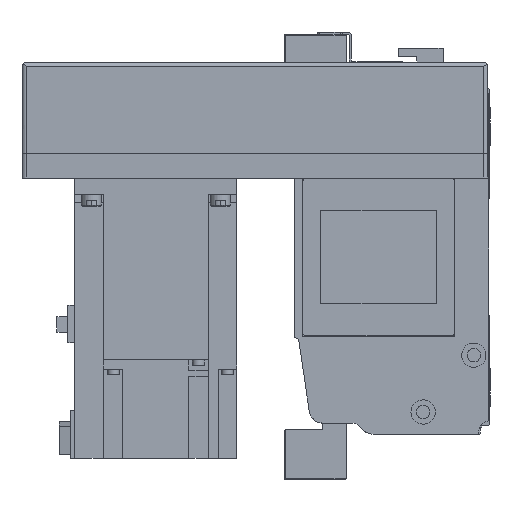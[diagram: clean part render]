
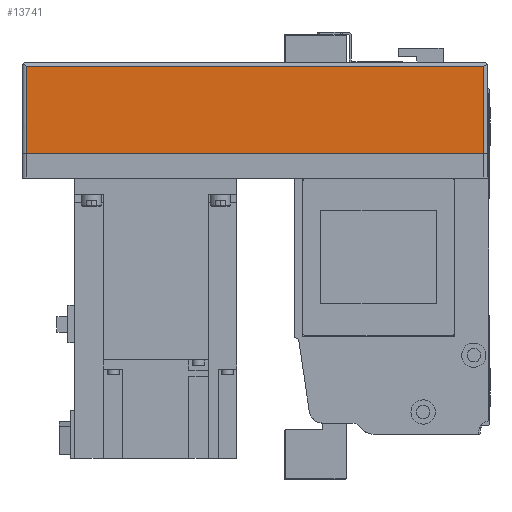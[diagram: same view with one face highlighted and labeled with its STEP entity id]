
A CAD part, left-side view. The second image highlights one B-rep face of the part: STEP entity #13741.
In plain terms, the highlighted planar face has unit normal (-1, 0, 0) as drawn and (0, 1, 0) by its records, which use the part's own axes.
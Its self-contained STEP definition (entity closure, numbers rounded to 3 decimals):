
#2482=ORIENTED_EDGE('',*,*,#5714,.F.);
#2483=ORIENTED_EDGE('',*,*,#5654,.T.);
#2484=ORIENTED_EDGE('',*,*,#5715,.F.);
#2485=ORIENTED_EDGE('',*,*,#5649,.F.);
#5649=EDGE_CURVE('',#7414,#7415,#8854,.T.);
#5654=EDGE_CURVE('',#7420,#7419,#8856,.T.);
#5714=EDGE_CURVE('',#7420,#7414,#8899,.T.);
#5715=EDGE_CURVE('',#7415,#7419,#8900,.T.);
#7414=VERTEX_POINT('',#21490);
#7415=VERTEX_POINT('',#21492);
#7419=VERTEX_POINT('',#21501);
#7420=VERTEX_POINT('',#21503);
#8854=LINE('',#21491,#10167);
#8856=LINE('',#21502,#10169);
#8899=LINE('',#21625,#10212);
#8900=LINE('',#21626,#10213);
#10167=VECTOR('',#17175,1000.);
#10169=VECTOR('',#17185,1000.);
#10212=VECTOR('',#17306,1000.);
#10213=VECTOR('',#17307,1000.);
#11320=EDGE_LOOP('',(#2482,#2483,#2484,#2485));
#12323=FACE_BOUND('',#11320,.T.);
#13158=PLANE('',#14762);
#13741=ADVANCED_FACE('',(#12323),#13158,.T.);
#14762=AXIS2_PLACEMENT_3D('',#21624,#17304,#17305);
#17175=DIRECTION('',(0.,0.,1.));
#17185=DIRECTION('',(0.,0.,1.));
#17304=DIRECTION('',(0.,1.,0.));
#17305=DIRECTION('',(0.,0.,1.));
#17306=DIRECTION('',(1.,0.,0.));
#17307=DIRECTION('',(-1.,0.,0.));
#21490=CARTESIAN_POINT('',(-2.,54.,-55.));
#21491=CARTESIAN_POINT('',(-2.,54.,-57.));
#21492=CARTESIAN_POINT('',(-2.,54.,-12.));
#21501=CARTESIAN_POINT('',(-228.,54.,-12.));
#21502=CARTESIAN_POINT('',(-228.,54.,-57.));
#21503=CARTESIAN_POINT('',(-228.,54.,-55.));
#21624=CARTESIAN_POINT('',(-2.,54.,-57.));
#21625=CARTESIAN_POINT('',(-230.,54.,-55.));
#21626=CARTESIAN_POINT('',(-2.,54.,-12.));
